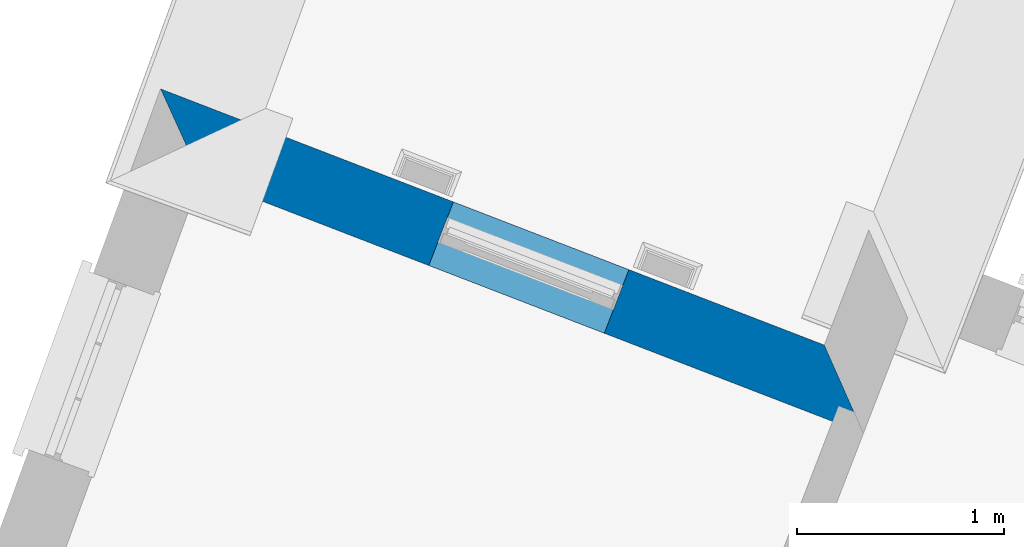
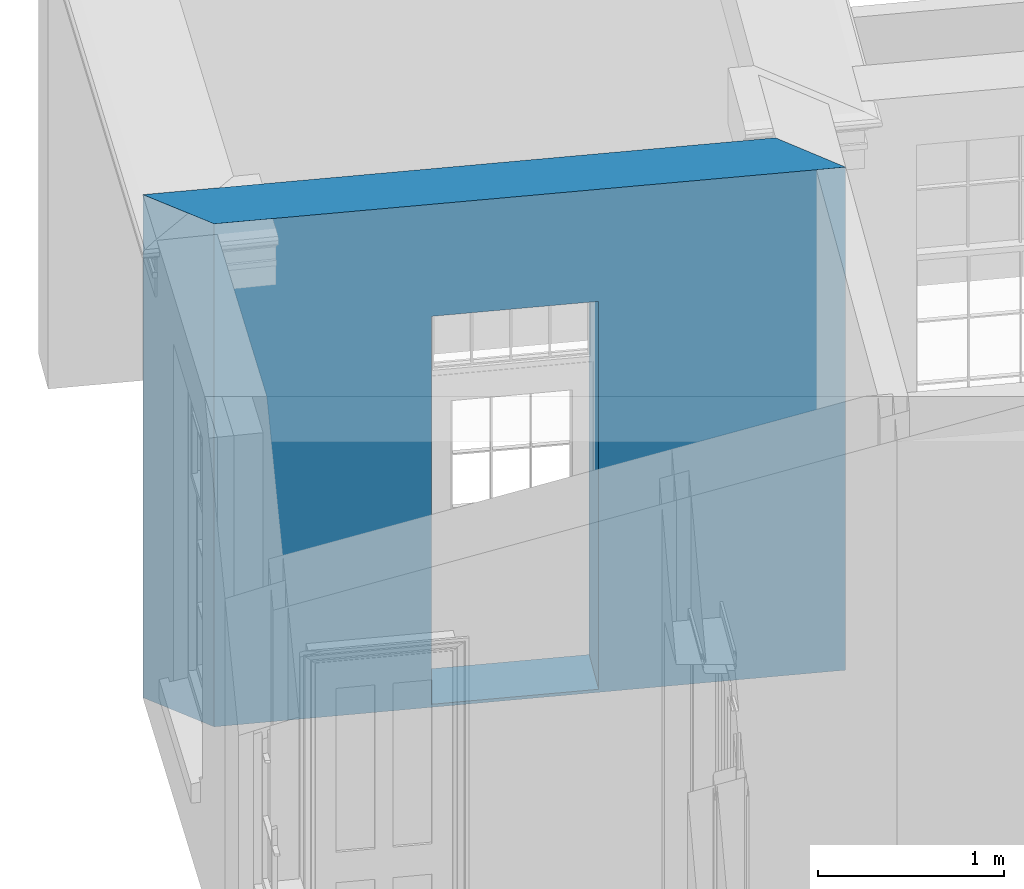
# One storey, part 5 of 6: 1 wall, 1 opening.
"""IFC4 building model written with IfcOpenShell, lengths in metres."""

from ifc_helpers import new_model, si_unit, frame, origin_with_axes, place, context, subcontext, project, spatial, polyline, outline, extrude, material, layer, layer_set, layer_usage, type_object, element, save


model = new_model("IFC4")

# Units and contexts
model_context = context("Model", 3, world=origin_with_axes())
body_context = subcontext(model_context, "Body", "Model", "MODEL_VIEW")
ifc_project = project(units=[si_unit("PLANEANGLEUNIT", "RADIAN"), si_unit("MASSUNIT", "GRAM", prefix="KILO"), si_unit("FORCEUNIT", "NEWTON", prefix="KILO"), si_unit("LENGTHUNIT", "METRE"), si_unit("AREAUNIT", "SQUARE_METRE"), si_unit("VOLUMEUNIT", "CUBIC_METRE")], contexts=[model_context, model_context])

# Sites, building, storey
site_1_placement = place(None, origin_with_axes())
site_1 = spatial("IfcSite", under=ifc_project, at=site_1_placement, Name="Tamar")
site_2_placement = place(site_1_placement, origin_with_axes())
site_2 = spatial("IfcSite", under=site_1, at=site_2_placement, Name="Site plot-11", CompositionType="ELEMENT")
building_placement = place(None, origin_with_axes())
building = spatial("IfcBuilding", under=site_2, at=building_placement, Name="Building plot-11", CompositionType="ELEMENT")
storey_placement = place(None, frame((0.0, 0.0, 26.8), z_axis=(0.0, 0.0, 1.0), x_axis=(1.0, 0.0, 0.0)))
storey = spatial("IfcBuildingStorey", under=building, at=storey_placement, Name="plot-11 0", CompositionType="ELEMENT", Elevation=26.8)

# Wall, opening
ifc_material = material(Name="Masonry")
ifc_layer = layer(ifc_material, 0.33, ventilated=False)
ifc_layer_set = layer_set([ifc_layer], Name="exterior_0.08_0.25")
ifc_layer_usage = layer_usage(ifc_layer_set, "AXIS2", "POSITIVE", -0.25)
wall_type = type_object("IfcWallType", Name="exterior_0.08_0.25", PredefinedType="SOLIDWALL", material=ifc_layer_set)
wall_placement = place(storey_placement, frame((244.281774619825, 315.95268100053, 0.0), z_axis=(0.0, 0.0, 1.0), x_axis=(-0.932925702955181, 0.360068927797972, 0.0)))
wall = element("IfcWall", 1, at=wall_placement, inside=storey, type_object=wall_type, material=ifc_layer_usage, Name="exterior", context=body_context, shape_type="SweptSolid", body=[
    extrude(outline(polyline([(-0.0799999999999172, 0.0799999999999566), (0.24999999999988, -0.249999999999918), (3.69149547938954, -0.250000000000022), (3.35532806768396, 0.0800000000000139), (-0.0799999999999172, 0.0799999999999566)])), origin_with_axes(), (0.0, 0.0, 1.0), 3.3),
])
opening_placement = place(wall_placement, frame((1.26341159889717, 0.0, 0.0199999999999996)))
element("IfcOpeningElement", 2, at=opening_placement, cuts=wall, Name="My Opening", ObjectType="Opening", context=body_context, shape_type="SweptSolid", body=[
    extrude(outline(polyline([(0.0, -0.26999999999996), (0.910000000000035, -0.269999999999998), (0.910000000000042, 1.1), (5.77315972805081e-15, 1.10000000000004), (0.0, -0.26999999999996)])), origin_with_axes(), (0.0, 0.0, 1.0), 2.545),
])

save(model, "model.ifc")
